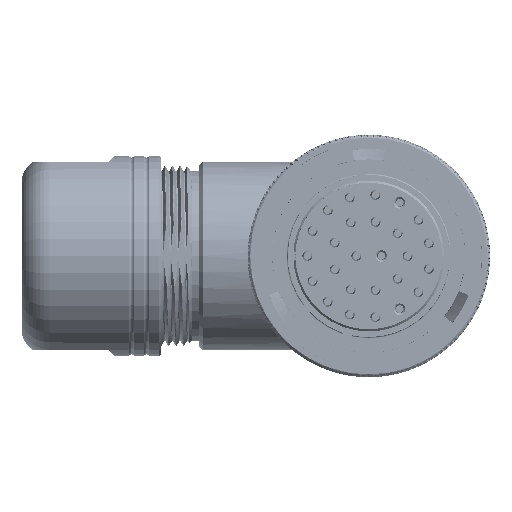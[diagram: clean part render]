
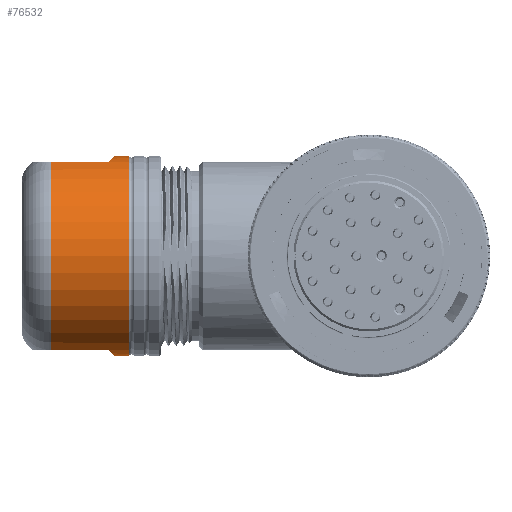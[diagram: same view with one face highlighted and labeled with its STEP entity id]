
A CAD part, front view. The second image highlights one B-rep face of the part: STEP entity #76532.
In plain terms, the highlighted cylindrical face has radius 13.25 mm (diameter 26.5 mm), a partial arc.
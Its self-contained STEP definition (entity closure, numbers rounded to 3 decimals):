
#2104 = ORIENTED_EDGE ( 'NONE', *, *, #280997, .F. ) ;
#2481 = CARTESIAN_POINT ( 'NONE',  ( -33.7, 33.316, -13.25 ) ) ;
#6352 = LINE ( 'NONE', #243099, #65321 ) ;
#17682 = CARTESIAN_POINT ( 'NONE',  ( -34.039, 30.721, 12.911 ) ) ;
#21484 = ORIENTED_EDGE ( 'NONE', *, *, #196389, .F. ) ;
#22286 = DIRECTION ( 'NONE',  ( -1., 0., 0. ) ) ;
#22523 = VERTEX_POINT ( 'NONE', #254411 ) ;
#23137 = AXIS2_PLACEMENT_3D ( 'NONE', #246975, #99394, #271734 ) ;
#24208 = CARTESIAN_POINT ( 'NONE',  ( -31.846, 33.708, 13.25 ) ) ;
#26636 = DIRECTION ( 'NONE',  ( -1., 0., 0. ) ) ;
#31345 = ORIENTED_EDGE ( 'NONE', *, *, #250632, .F. ) ;
#33105 = AXIS2_PLACEMENT_3D ( 'NONE', #62025, #86815, #209665 ) ;
#39027 = VECTOR ( 'NONE', #116583, 1000. ) ;
#42419 = CARTESIAN_POINT ( 'NONE',  ( -33.942, 31.187, 13.008 ) ) ;
#47788 = CARTESIAN_POINT ( 'NONE',  ( -33.7, 33.708, 13.25 ) ) ;
#52005 = CARTESIAN_POINT ( 'NONE',  ( -33.726, 32.73, -13.224 ) ) ;
#54849 = VERTEX_POINT ( 'NONE', #62517 ) ;
#59769 = CARTESIAN_POINT ( 'NONE',  ( -34.5, 29.173, -12.45 ) ) ;
#62025 = CARTESIAN_POINT ( 'NONE',  ( -46.925, 33.708, 0. ) ) ;
#62517 = CARTESIAN_POINT ( 'NONE',  ( -42.2, 29.173, -12.45 ) ) ;
#63533 = EDGE_CURVE ( 'NONE', #179839, #54849, #6352, .T. ) ;
#65321 = VECTOR ( 'NONE', #26636, 1000. ) ;
#66309 = LINE ( 'NONE', #318859, #132048 ) ;
#66349 = FACE_OUTER_BOUND ( 'NONE', #121979, .T. ) ;
#67202 = CARTESIAN_POINT ( 'NONE',  ( -33.916, 31.326, 13.034 ) ) ;
#76532 = ADVANCED_FACE ( 'NONE', ( #66349 ), #124314, .T. ) ;
#76767 = CARTESIAN_POINT ( 'NONE',  ( -33.85, 31.712, -13.1 ) ) ;
#80343 = VECTOR ( 'NONE', #186731, 1000. ) ;
#86491 = CARTESIAN_POINT ( 'NONE',  ( -31.846, 33.708, -13.25 ) ) ;
#86815 = DIRECTION ( 'NONE',  ( 1., 0., 0. ) ) ;
#92001 = CARTESIAN_POINT ( 'NONE',  ( -33.7, 32.923, 13.25 ) ) ;
#95060 = VERTEX_POINT ( 'NONE', #206801 ) ;
#95250 = EDGE_CURVE ( 'NONE', #266836, #144045, #229721, .T. ) ;
#97630 = EDGE_CURVE ( 'NONE', #22523, #54849, #241792, .T. ) ;
#99394 = DIRECTION ( 'NONE',  ( 1., 0., 0. ) ) ;
#101596 = CARTESIAN_POINT ( 'NONE',  ( -33.89, 31.471, -13.06 ) ) ;
#114017 = ORIENTED_EDGE ( 'NONE', *, *, #95250, .T. ) ;
#115546 = AXIS2_PLACEMENT_3D ( 'NONE', #169909, #22286, #194668 ) ;
#116583 = DIRECTION ( 'NONE',  ( 1., 0., 0. ) ) ;
#116961 = VERTEX_POINT ( 'NONE', #206123 ) ;
#119653 = EDGE_CURVE ( 'NONE', #116961, #266836, #153653, .T. ) ;
#121979 = EDGE_LOOP ( 'NONE', ( #21484, #135281, #2104, #274462, #259764, #31345, #298912, #114017 ) ) ;
#124297 = CARTESIAN_POINT ( 'NONE',  ( -33.7, 33.708, -13.25 ) ) ;
#124314 = CYLINDRICAL_SURFACE ( 'NONE', #33105, 13.25 ) ;
#126396 = CARTESIAN_POINT ( 'NONE',  ( -34.041, 30.624, -12.909 ) ) ;
#132048 = VECTOR ( 'NONE', #171191, 1000. ) ;
#135281 = ORIENTED_EDGE ( 'NONE', *, *, #290338, .F. ) ;
#140561 = CARTESIAN_POINT ( 'NONE',  ( -34.5, 29.173, 12.45 ) ) ;
#144045 = VERTEX_POINT ( 'NONE', #24208 ) ;
#151145 = CARTESIAN_POINT ( 'NONE',  ( -34.5, 29.173, -12.45 ) ) ;
#153653 = LINE ( 'NONE', #161958, #80343 ) ;
#161958 = CARTESIAN_POINT ( 'NONE',  ( -33.7, 33.708, -13.25 ) ) ;
#165292 = CARTESIAN_POINT ( 'NONE',  ( -34.198, 30.075, 12.752 ) ) ;
#166871 = B_SPLINE_CURVE_WITH_KNOTS ( 'NONE', 3,
 ( #140561, #288137, #165292, #17682, #190056, #42419, #214830, #67202, #239625, #92001, #264388 ),
 .UNSPECIFIED., .F., .F.,
 ( 4, 1, 1, 1, 2, 2, 4 ),
 ( 0., 0.25, 0.375, 0.437, 0.469, 0.5, 1. ),
 .UNSPECIFIED. ) ;
#169909 = CARTESIAN_POINT ( 'NONE',  ( -31.846, 33.708, 0. ) ) ;
#171191 = DIRECTION ( 'NONE',  ( 1., 0., 0. ) ) ;
#179839 = VERTEX_POINT ( 'NONE', #59769 ) ;
#186731 = DIRECTION ( 'NONE',  ( 1., 0., 0. ) ) ;
#190056 = CARTESIAN_POINT ( 'NONE',  ( -33.969, 31.047, 12.981 ) ) ;
#194668 = DIRECTION ( 'NONE',  ( 0., 0., -1. ) ) ;
#196389 = EDGE_CURVE ( 'NONE', #212840, #144045, #301292, .T. ) ;
#206123 = CARTESIAN_POINT ( 'NONE',  ( -33.7, 33.708, -13.25 ) ) ;
#206801 = CARTESIAN_POINT ( 'NONE',  ( -34.5, 29.173, 12.45 ) ) ;
#209665 = DIRECTION ( 'NONE',  ( 0., 0., 1. ) ) ;
#212840 = VERTEX_POINT ( 'NONE', #47788 ) ;
#214830 = CARTESIAN_POINT ( 'NONE',  ( -33.924, 31.281, 13.026 ) ) ;
#224363 = CARTESIAN_POINT ( 'NONE',  ( -33.801, 32.051, -13.149 ) ) ;
#229721 = CIRCLE ( 'NONE', #115546, 13.25 ) ;
#237263 = B_SPLINE_CURVE_WITH_KNOTS ( 'NONE', 3,
 ( #124297, #2481, #52005, #224363, #76767, #249174, #101596, #273929, #126396, #298767, #151145 ),
 .UNSPECIFIED., .F., .F.,
 ( 4, 1, 1, 1, 2, 2, 4 ),
 ( 0., 0.25, 0.375, 0.438, 0.469, 0.5, 1. ),
 .UNSPECIFIED. ) ;
#239625 = CARTESIAN_POINT ( 'NONE',  ( -33.769, 32.146, 13.181 ) ) ;
#241792 = CIRCLE ( 'NONE', #23137, 13.25 ) ;
#243099 = CARTESIAN_POINT ( 'NONE',  ( -34.5, 29.173, -12.45 ) ) ;
#246975 = CARTESIAN_POINT ( 'NONE',  ( -42.2, 33.708, 0. ) ) ;
#249174 = CARTESIAN_POINT ( 'NONE',  ( -33.874, 31.568, -13.076 ) ) ;
#250632 = EDGE_CURVE ( 'NONE', #116961, #179839, #237263, .T. ) ;
#254411 = CARTESIAN_POINT ( 'NONE',  ( -42.2, 29.173, 12.45 ) ) ;
#259764 = ORIENTED_EDGE ( 'NONE', *, *, #63533, .F. ) ;
#264152 = CARTESIAN_POINT ( 'NONE',  ( -33.7, 33.708, 13.25 ) ) ;
#264388 = CARTESIAN_POINT ( 'NONE',  ( -33.7, 33.708, 13.25 ) ) ;
#266836 = VERTEX_POINT ( 'NONE', #86491 ) ;
#271734 = DIRECTION ( 'NONE',  ( 0., -0.342, 0.94 ) ) ;
#273929 = CARTESIAN_POINT ( 'NONE',  ( -33.899, 31.421, -13.051 ) ) ;
#274462 = ORIENTED_EDGE ( 'NONE', *, *, #97630, .T. ) ;
#280997 = EDGE_CURVE ( 'NONE', #22523, #95060, #66309, .T. ) ;
#288137 = CARTESIAN_POINT ( 'NONE',  ( -34.37, 29.532, 12.58 ) ) ;
#290338 = EDGE_CURVE ( 'NONE', #95060, #212840, #166871, .T. ) ;
#298767 = CARTESIAN_POINT ( 'NONE',  ( -34.239, 29.89, -12.711 ) ) ;
#298912 = ORIENTED_EDGE ( 'NONE', *, *, #119653, .T. ) ;
#301292 = LINE ( 'NONE', #264152, #39027 ) ;
#318859 = CARTESIAN_POINT ( 'NONE',  ( -42.2, 29.173, 12.45 ) ) ;
